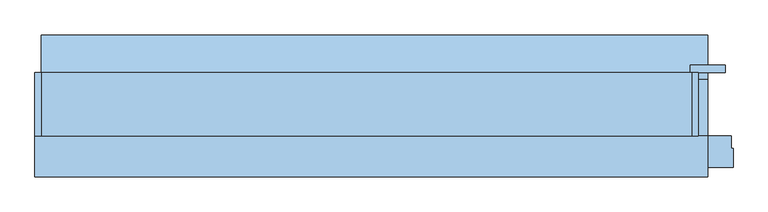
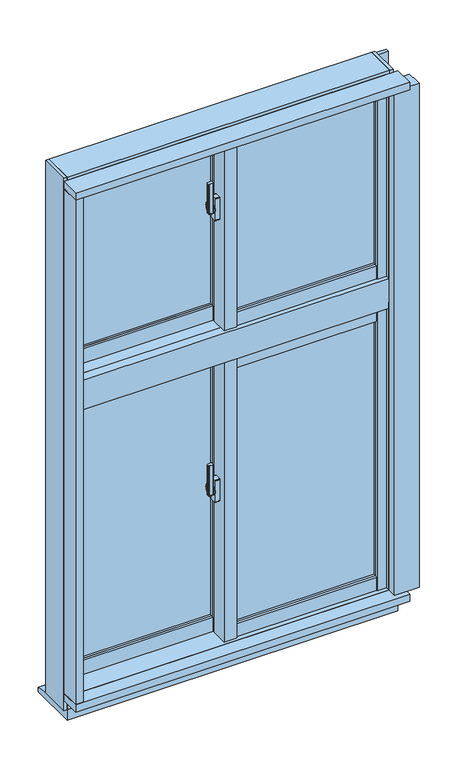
"""IFC4 building model written with IfcOpenShell, lengths in millimetres: window geometry, FNSⅡ100R_個別防火_RC枠_段窓 : 引違/引違."""

from ifc_helpers import new_model, si_unit, point, frame, frame_2d, origin, place, context, project, spatial, polyline, circle_curve, trimmed, segment, composite_curve, outline, extrude, faceted_brep, source, transform, mapped, element, save
from ifc_brep_helpers import plane_surface, cylinder_surface, revolved_surface, advanced_brep


def window_6179c8a8(model_context):
    return source(origin(), model_context, "Body", "SolidModel", [
        extrude(outline(composite_curve([segment(polyline([(-39.0, -20.4), (-39.0, -28.6)]), True, "CONTINUOUS"), segment(trimmed(circle_curve(frame_2d((-41.0, -28.6)), 2.0), [point((-39.0, -28.6))], [point((-41.3606557, -30.5672131))], False, "CARTESIAN"), True, "CONTINUOUS"), segment(polyline([(-41.3606557, -30.5672131), (-52.3606557, -28.5505464)]), True, "CONTINUOUS"), segment(trimmed(circle_curve(frame_2d((-52.0, -26.5833333)), 2.0), [point((-52.3606557, -28.5505464))], [point((-54.0, -26.5833333))], False, "CARTESIAN"), True, "CONTINUOUS"), segment(polyline([(-54.0, -26.5833333), (-54.0, -22.4166667)]), True, "CONTINUOUS"), segment(trimmed(circle_curve(frame_2d((-52.0, -22.4166667)), 2.0), [point((-54.0, -22.4166667))], [point((-52.3606557, -20.4494536))], False, "CARTESIAN"), True, "CONTINUOUS"), segment(polyline([(-52.3606557, -20.4494536), (-41.3606557, -18.4327869)]), True, "CONTINUOUS"), segment(trimmed(circle_curve(frame_2d((-41.0, -20.4)), 2.0), [point((-41.3606557, -18.4327869))], [point((-39.0, -20.4))], False, "CARTESIAN"), True, "CONTINUOUS")], self_intersect=False)), frame((0.0, 0.0, 2340.0), z_axis=(0.0, 0.0, 1.0), x_axis=(1.0, 0.0, 0.0)), (0.0, 0.0, 1.0), 100.0),
        advanced_brep(
        [(-37.5, -16.1765715, 2371.7333311), (-45.5, -16.1765715, 2371.7333311), (-45.5, -16.5648001, 2370.2844424), (-39.0, -16.5648001, 2370.2844424), (-39.0, -18.3765334, 2363.5229616), (-37.5, -18.3765334, 2363.5229616), (-39.0, -18.3533883, 2329.3190372), (-45.5, -18.3533883, 2329.3190372), (-45.5, -18.092916, 2327.8418256), (-37.5, -18.092916, 2327.8418256), (-37.5, -19.5689255, 2336.2126915), (-39.0, -19.5689255, 2336.2126915)],
        [
            (0, 1),
            (1, 2),
            (2, 3),
            (3, 4),
            (4, 5),
            (5, 0),
            (6, 7),
            (7, 8),
            (8, 9),
            (9, 10),
            (10, 11),
            (11, 6),
            (0, 9, circle_curve(frame((-37.5, -22.0, 2350.0), z_axis=(-1.0, 0.0, 0.0), x_axis=(0.0, 0.25881904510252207, 0.965925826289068)), 22.5)),
            (8, 1, circle_curve(frame((-45.5, -22.0, 2350.0), z_axis=(1.0, 0.0, 0.0), x_axis=(0.0, 0.25881904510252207, 0.965925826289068)), 22.5)),
            (7, 2, circle_curve(frame((-45.5, -22.0, 2350.0), z_axis=(1.0, 0.0, 0.0), x_axis=(0.0, 0.25881904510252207, 0.965925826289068)), 21.0)),
            (6, 3, circle_curve(frame((-39.0, -22.0, 2350.0), z_axis=(1.0, 0.0, 0.0), x_axis=(0.0, 0.25881904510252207, 0.965925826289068)), 21.0)),
            (11, 4, circle_curve(frame((-39.0, -22.0, 2350.0), z_axis=(-1.0, 0.0, 0.0), x_axis=(0.0, -1.0, 0.0)), 14.0)),
            (5, 10, circle_curve(frame((-37.5, -22.0, 2350.0), z_axis=(1.0, 0.0, 0.0), x_axis=(0.0, -1.0, 0.0)), 14.0)),
        ],
        [
            plane_surface(frame((-43.5470497, -22.0, 2350.0), z_axis=(0.0, -0.965925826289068, 0.25881904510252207), x_axis=(0.0, 0.25881904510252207, 0.965925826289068))),
            plane_surface(frame((-43.5470497, -22.0, 2350.0), z_axis=(0.0, -0.9848077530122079, -0.17364817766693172), x_axis=(0.0, 0.17364817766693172, -0.9848077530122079))),
            cylinder_surface(frame((-43.5470497, -22.0, 2350.0), z_axis=(-1.0, 0.0, 0.0), x_axis=(0.0, 0.25881904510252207, 0.965925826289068)), 22.5),
            plane_surface(frame((-45.5, -22.0, 2350.0), z_axis=(-1.0, 0.0, 0.0), x_axis=(0.0, 0.25881904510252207, 0.965925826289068))),
            revolved_surface(polyline([(-45.5, -16.564800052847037, 2370.2844423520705), (-39.0, -16.564800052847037, 2370.2844423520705)]), (-43.5470497, -22.0, 2350.0), (-1.0, 0.0, 0.0)),
            plane_surface(frame((-39.0, -22.0, 2350.0), z_axis=(-1.0, 0.0, 0.0), x_axis=(0.0, 0.25881904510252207, 0.965925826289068))),
            plane_surface(frame((-37.5, -22.0, 2350.0), z_axis=(1.0, 0.0, 0.0), x_axis=(0.0, 0.25881904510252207, 0.965925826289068))),
            cylinder_surface(frame((-37.5, -22.0, 2350.0), z_axis=(-1.0, 0.0, 0.0), x_axis=(0.0, -1.0, 0.0)), 14.0),
        ],
        [
            (0, [[1, 2, 3, 4, 5, 6]]),
            (1, [[7, 8, 9, 10, 11, 12]]),
            (2, [[-1, 13, -9, 14]]),
            (3, [[-2, -14, -8, 15]]),
            (4, [[-3, -15, -7, 16]]),
            (5, [[-16, -12, 17, -4]]),
            (6, [[-13, -6, 18, -10]]),
            (7, [[-17, -11, -18, -5]]),
        ],
    ),
        extrude(outline(composite_curve([segment(trimmed(circle_curve(frame_2d((-22.0, 2350.0)), 11.5), [point((-10.5, 2350.0))], [point((-33.5, 2350.0))], False, "CARTESIAN"), True, "CONTINUOUS"), segment(trimmed(circle_curve(frame_2d((-22.0, 2350.0)), 11.5), [point((-33.5, 2350.0))], [point((-10.5, 2350.0))], False, "CARTESIAN"), True, "CONTINUOUS")], self_intersect=False)), frame((-37.5, 0.0, 0.0), z_axis=(1.0, 0.0, 0.0), x_axis=(0.0, 1.0, 0.0)), (0.0, 0.0, 1.0), 2.5),
        extrude(outline(composite_curve([segment(polyline([(-31.0, 2387.5), (-13.0, 2387.5)]), True, "CONTINUOUS"), segment(trimmed(circle_curve(frame_2d((-13.0, 2385.5)), 2.0), [point((-13.0, 2387.5))], [point((-11.0, 2385.5))], False, "CARTESIAN"), True, "CONTINUOUS"), segment(polyline([(-11.0, 2385.5), (-11.0, 2314.5)]), True, "CONTINUOUS"), segment(trimmed(circle_curve(frame_2d((-13.0, 2314.5)), 2.0), [point((-11.0, 2314.5))], [point((-13.0, 2312.5))], False, "CARTESIAN"), True, "CONTINUOUS"), segment(polyline([(-13.0, 2312.5), (-31.0, 2312.5)]), True, "CONTINUOUS"), segment(trimmed(circle_curve(frame_2d((-31.0, 2314.5)), 2.0), [point((-31.0, 2312.5))], [point((-33.0, 2314.5))], False, "CARTESIAN"), True, "CONTINUOUS"), segment(polyline([(-33.0, 2314.5), (-33.0, 2385.5)]), True, "CONTINUOUS"), segment(trimmed(circle_curve(frame_2d((-31.0, 2385.5)), 2.0), [point((-33.0, 2385.5))], [point((-31.0, 2387.5))], False, "CARTESIAN"), True, "CONTINUOUS")], self_intersect=False)), frame((-35.0, 0.0, 0.0), z_axis=(1.0, 0.0, 0.0), x_axis=(0.0, 1.0, 0.0)), (0.0, 0.0, 1.0), 15.0),
        extrude(outline(polyline([(20.0, -31.0), (468.0, -31.0), (468.0, -37.0), (20.0, -37.0), (20.0, -31.0)])), frame((0.0, 0.0, 1998.0), z_axis=(0.0, 0.0, 1.0), x_axis=(1.0, 0.0, 0.0)), (0.0, 0.0, 1.0), 562.0),
        extrude(outline(polyline([(20.0, -13.0), (468.0, -13.0), (468.0, -19.0), (20.0, -19.0), (20.0, -13.0)])), frame((0.0, 0.0, 1998.0), z_axis=(0.0, 0.0, 1.0), x_axis=(1.0, 0.0, 0.0)), (0.0, 0.0, 1.0), 562.0),
        extrude(outline(polyline([(-468.0, 27.0), (-20.0, 27.0), (-20.0, 21.0), (-468.0, 21.0), (-468.0, 27.0)])), frame((0.0, 0.0, 1998.0), z_axis=(0.0, 0.0, 1.0), x_axis=(1.0, 0.0, 0.0)), (0.0, 0.0, 1.0), 562.0),
        extrude(outline(polyline([(-468.0, 45.0), (-20.0, 45.0), (-20.0, 39.0), (-468.0, 39.0), (-468.0, 45.0)])), frame((0.0, 0.0, 1998.0), z_axis=(0.0, 0.0, 1.0), x_axis=(1.0, 0.0, 0.0)), (0.0, 0.0, 1.0), 562.0),
        faceted_brep([(-500.0, 24.0, 2600.0), (-489.5, 24.0, 2600.0), (-489.5, 11.0, 2600.0), (-468.0, 11.0, 2600.0), (-468.0, 53.0, 2600.0), (-500.0, 53.0, 2600.0), (-468.0, 24.0, 1910.0), (-500.0, 24.0, 1910.0), (-500.0, 53.0, 1910.0), (-468.0, 53.0, 1910.0), (-468.0, 24.0, 1950.0), (-489.5, 24.0, 1950.0), (-489.5, 11.0, 1950.0), (-468.0, 11.0, 1950.0)], [[[0, 1, 2, 3, 4, 5]], [[6, 7, 8, 9]], [[1, 0, 7, 6, 10, 11]], [[2, 1, 11, 12]], [[3, 2, 12, 13]], [[4, 3, 13, 10, 6, 9]], [[5, 4, 9, 8]], [[7, 0, 5, 8]], [[11, 10, 13, 12]]]),
        faceted_brep([(-20.0, 10.5, 2600.0), (-1.8, 10.5, 2600.0), (-1.8, -1.9, 2600.0), (20.0, -1.9, 2600.0), (20.0, 53.0, 2600.0), (-20.0, 53.0, 2600.0), (-20.0, 53.0, 1910.0), (20.0, 53.0, 1910.0), (20.0, 24.0, 1910.0), (-20.0, 24.0, 1910.0), (-20.0, 10.5, 1950.0), (-1.8, 10.5, 1950.0), (-1.8, -1.9, 1950.0), (20.0, -1.9, 1950.0), (20.0, 24.0, 1950.0), (-20.0, 24.0, 1950.0)], [[[0, 1, 2, 3, 4, 5]], [[6, 7, 8, 9]], [[1, 0, 10, 11]], [[2, 1, 11, 12]], [[3, 2, 12, 13]], [[4, 3, 13, 14, 8, 7]], [[5, 4, 7, 6]], [[0, 5, 6, 9, 15, 10]], [[14, 15, 9, 8]], [[15, 14, 13, 12, 11, 10]]]),
        extrude(outline(polyline([(-20.0, -1.9), (-15.0, -1.9), (-15.0, -47.0), (15.0, -47.0), (15.0, -43.0), (20.0, -43.0), (20.0, -55.0), (-20.0, -55.0), (-20.0, -1.9)])), frame((0.0, 0.0, 1950.0), z_axis=(0.0, 0.0, 1.0), x_axis=(1.0, 0.0, 0.0)), (0.0, 0.0, 1.0), 650.0),
        extrude(outline(polyline([(-15.0, -1.9), (20.0, -1.9), (20.0, -43.0), (15.0, -43.0), (15.0, -47.0), (-15.0, -47.0), (-15.0, -1.9)])), frame((0.0, 0.0, 1950.0), z_axis=(0.0, 0.0, 1.0), x_axis=(1.0, 0.0, 0.0)), (0.0, 0.0, 1.0), 650.0),
        extrude(outline(polyline([(468.0, -55.0), (468.0, -47.0), (489.5, -47.0), (489.5, -34.0), (497.0, -34.0), (497.0, -55.0), (468.0, -55.0)])), frame((0.0, 0.0, 1953.0), z_axis=(0.0, 0.0, 1.0), x_axis=(1.0, 0.0, 0.0)), (0.0, 0.0, 1.0), 647.0),
        extrude(outline(polyline([(468.0, -5.0), (500.0, -5.0), (500.0, -34.0), (489.5, -34.0), (489.5, -47.0), (468.0, -47.0), (468.0, -5.0)])), frame((0.0, 0.0, 1950.0), z_axis=(0.0, 0.0, 1.0), x_axis=(1.0, 0.0, 0.0)), (0.0, 0.0, 1.0), 650.0),
        extrude(outline(polyline([(-1.85, 10.5), (-1.85, 3.0), (-20.0, 3.0), (-20.0, 10.5), (-1.85, 10.5)])), frame((0.0, 0.0, 1950.0), z_axis=(0.0, 0.0, 1.0), x_axis=(1.0, 0.0, 0.0)), (0.0, 0.0, 1.0), 650.0),
        extrude(outline(polyline([(-497.0, 24.0), (-489.5, 24.0), (-489.5, 11.0), (-468.0, 11.0), (-468.0, 3.0), (-497.0, 3.0), (-497.0, 24.0)])), frame((0.0, 0.0, 1950.0), z_axis=(0.0, 0.0, 1.0), x_axis=(1.0, 0.0, 0.0)), (0.0, 0.0, 1.0), 650.0),
        extrude(outline(polyline([(-53.0, 1953.0), (-53.0, 1998.0), (-45.0, 1998.0), (-45.0, 1975.5), (-34.0, 1975.5), (-34.0, 1953.0), (-53.0, 1953.0)])), frame((20.0, 0.0, 0.0), z_axis=(1.0, 0.0, 0.0), x_axis=(0.0, 1.0, 0.0)), (0.0, 0.0, 1.0), 448.0),
        extrude(outline(polyline([(-5.0, 1950.0), (-34.0, 1950.0), (-34.0, 1975.5), (-45.0, 1975.5), (-45.0, 1998.0), (-5.0, 1998.0), (-5.0, 1950.0)])), frame((20.0, 0.0, 0.0), z_axis=(1.0, 0.0, 0.0), x_axis=(0.0, 1.0, 0.0)), (0.0, 0.0, 1.0), 448.0),
        extrude(outline(polyline([(5.0, 1998.0), (13.0, 1998.0), (13.0, 1975.5), (24.0, 1975.5), (24.0, 1950.0), (5.0, 1950.0), (5.0, 1998.0)])), frame((-468.0, 0.0, 0.0), z_axis=(1.0, 0.0, 0.0), x_axis=(0.0, 1.0, 0.0)), (0.0, 0.0, 1.0), 448.0),
        extrude(outline(polyline([(53.0, 1910.0), (24.0, 1910.0), (24.0, 1975.5), (13.0, 1975.5), (13.0, 1998.0), (53.0, 1998.0), (53.0, 1910.0)])), frame((-468.0, 0.0, 0.0), z_axis=(1.0, 0.0, 0.0), x_axis=(0.0, 1.0, 0.0)), (0.0, 0.0, 1.0), 448.0),
        extrude(outline(polyline([(-32.0, 2580.5), (-45.0, 2580.5), (-45.0, 2560.0), (-53.0, 2560.0), (-53.0, 2600.0), (-32.0, 2600.0), (-32.0, 2580.5)])), frame((20.0, 0.0, 0.0), z_axis=(1.0, 0.0, 0.0), x_axis=(0.0, 1.0, 0.0)), (0.0, 0.0, 1.0), 448.0),
        extrude(outline(polyline([(-5.0, 2600.0), (-5.0, 2560.0), (-45.0, 2560.0), (-45.0, 2580.5), (-32.0, 2580.5), (-32.0, 2600.0), (-5.0, 2600.0)])), frame((20.0, 0.0, 0.0), z_axis=(1.0, 0.0, 0.0), x_axis=(0.0, 1.0, 0.0)), (0.0, 0.0, 1.0), 448.0),
        extrude(outline(polyline([(26.0, 2580.5), (13.0, 2580.5), (13.0, 2560.0), (5.0, 2560.0), (5.0, 2600.0), (26.0, 2600.0), (26.0, 2580.5)])), frame((-468.0, 0.0, 0.0), z_axis=(1.0, 0.0, 0.0), x_axis=(0.0, 1.0, 0.0)), (0.0, 0.0, 1.0), 448.0),
        extrude(outline(polyline([(53.0, 2600.0), (53.0, 2560.0), (13.0, 2560.0), (13.0, 2580.5), (26.0, 2580.5), (26.0, 2600.0), (53.0, 2600.0)])), frame((-468.0, 0.0, 0.0), z_axis=(1.0, 0.0, 0.0), x_axis=(0.0, 1.0, 0.0)), (0.0, 0.0, 1.0), 448.0),
        faceted_brep([(500.0, -65.0, 900.0), (500.0, -40.5, 900.0), (515.0, -40.5, 900.0), (515.0, -45.0, 900.0), (503.0, -45.0, 900.0), (503.0, -65.0, 900.0), (500.0, -65.0, 1870.0), (500.0, -40.5, 1870.0), (515.0, -40.5, 1870.0), (515.0, -45.0, 1870.0), (503.0, -45.0, 1870.0), (503.0, -65.0, 1870.0)], [[[0, 1, 2, 3, 4, 5]], [[1, 0, 6, 7]], [[2, 1, 7, 8]], [[3, 2, 8, 9]], [[4, 3, 9, 10]], [[5, 4, 10, 11]], [[0, 5, 11, 6]], [[6, 11, 10, 9, 8, 7]]]),
        faceted_brep([(500.0, -45.0, 2620.0), (500.0, -40.5, 2620.0), (500.0, -40.5, 1950.0), (500.0, -65.0, 1950.0), (500.0, -65.0, 2603.0), (500.0, -45.0, 2603.0), (515.0, -40.5, 2620.0), (515.0, -40.5, 1950.0), (515.0, -45.0, 2620.0), (515.0, -45.0, 1950.0), (503.0, -45.0, 2603.0), (503.0, -45.0, 1950.0), (503.0, -65.0, 2603.0), (503.0, -65.0, 1950.0)], [[[0, 1, 2, 3, 4, 5]], [[1, 6, 7, 2]], [[6, 8, 9, 7]], [[5, 10, 11, 9, 8, 0]], [[10, 12, 13, 11]], [[12, 4, 3, 13]], [[8, 6, 1, 0]], [[10, 5, 4, 12]], [[13, 3, 2, 7, 9, 11]]]),
        faceted_brep([(515.0, 55.0, 840.0), (515.0, 55.0, 849.0), (515.0, 21.0, 849.0), (515.0, 21.0, 884.0), (515.0, -45.0, 884.0), (515.0, -45.0, 840.0), (-515.0, 55.0, 840.0), (-515.0, 55.0, 849.0), (-515.0, 21.0, 849.0), (-515.0, 21.0, 884.0), (-515.0, -45.0, 884.0), (500.0, -17.75, 884.0), (500.0, -36.2, 884.0), (-15.0, -36.2, 884.0), (-15.0, -17.75, 884.0), (-515.0, -45.0, 840.0), (500.0, -36.2, 900.0), (500.0, -17.75, 900.0), (-15.0, -36.2, 900.0), (-15.0, -17.75, 900.0)], [[[0, 1, 2, 3, 4, 5]], [[1, 0, 6, 7]], [[2, 1, 7, 8]], [[3, 2, 8, 9]], [[4, 3, 9, 10], [11, 12, 13, 14]], [[5, 4, 10, 15]], [[0, 5, 15, 6]], [[6, 15, 10, 9, 8, 7]], [[16, 12, 11, 17]], [[12, 16, 18, 13]], [[18, 19, 14, 13]], [[17, 11, 14, 19]], [[16, 17, 19, 18]]]),
        faceted_brep([(500.0, -36.2, 1950.0), (500.0, -36.2, 1934.0), (500.0, -17.75, 1934.0), (500.0, -17.75, 1950.0), (-15.0, -36.2, 1950.0), (-15.0, -17.75, 1950.0), (-15.0, -17.75, 1934.0), (-15.0, -36.2, 1934.0)], [[[0, 1, 2, 3]], [[4, 5, 6, 7]], [[1, 0, 4, 7]], [[2, 1, 7, 6]], [[3, 2, 6, 5]], [[0, 3, 5, 4]]]),
        faceted_brep([(-515.0, -45.0, 900.0), (-515.0, 21.0, 900.0), (-500.0, 21.0, 900.0), (-500.0, -65.0, 900.0), (-503.0, -65.0, 900.0), (-503.0, -45.0, 900.0), (-515.0, -45.0, 1870.0), (-515.0, 21.0, 1870.0), (-500.0, 21.0, 1870.0), (-500.0, -65.0, 1870.0), (-503.0, -65.0, 1870.0), (-503.0, -45.0, 1870.0)], [[[0, 1, 2, 3, 4, 5]], [[1, 0, 6, 7]], [[2, 1, 7, 8]], [[3, 2, 8, 9]], [[4, 3, 9, 10]], [[5, 4, 10, 11]], [[0, 5, 11, 6]], [[6, 11, 10, 9, 8, 7]]]),
        faceted_brep([(-515.0, -45.0, 2620.0), (-515.0, 21.0, 2620.0), (-515.0, 21.0, 1950.0), (-515.0, -45.0, 1950.0), (-500.0, 21.0, 2620.0), (-500.0, 21.0, 1950.0), (-500.0, -45.0, 2620.0), (-500.0, -45.0, 2603.0), (-500.0, -65.0, 2603.0), (-500.0, -65.0, 1950.0), (-503.0, -65.0, 2603.0), (-503.0, -65.0, 1950.0), (-503.0, -45.0, 2603.0), (-503.0, -45.0, 1950.0)], [[[0, 1, 2, 3]], [[1, 4, 5, 2]], [[4, 6, 7, 8, 9, 5]], [[8, 10, 11, 9]], [[10, 12, 13, 11]], [[12, 7, 6, 0, 3, 13]], [[4, 1, 0, 6]], [[7, 12, 10, 8]], [[13, 3, 2, 5, 9, 11]]]),
        faceted_brep([(-525.0, 55.0, 840.0), (-515.0, 55.0, 840.0), (-515.0, -45.0, 840.0), (-525.0, -45.0, 840.0), (-525.0, 55.0, 2635.0), (-515.0, 55.0, 2635.0), (-515.0, 55.0, 2600.0), (-500.0, 55.0, 2600.0), (-500.0, 55.0, 1899.0), (-515.0, 55.0, 1899.0), (-515.0, 55.0, 1850.0), (-500.0, 55.0, 1850.0), (-500.0, 55.0, 849.0), (-515.0, 55.0, 849.0), (-515.0, -45.0, 2635.0), (-515.0, 21.0, 849.0), (-515.0, 21.0, 1850.0), (-515.0, 21.0, 1899.0), (-515.0, 21.0, 2600.0), (-525.0, -45.0, 2635.0), (-500.0, 21.0, 849.0), (-500.0, 21.0, 1850.0), (-500.0, 21.0, 2600.0), (-500.0, 21.0, 1899.0)], [[[0, 1, 2, 3]], [[4, 5, 6, 7, 8, 9, 10, 11, 12, 13, 1, 0]], [[5, 14, 2, 1, 13, 15, 16, 10, 9, 17, 18, 6]], [[14, 19, 3, 2]], [[19, 4, 0, 3]], [[12, 20, 15, 13]], [[21, 16, 15, 20]], [[11, 21, 20, 12]], [[4, 19, 14, 5]], [[11, 10, 16, 21]], [[7, 6, 18, 22]], [[8, 23, 17, 9]], [[22, 18, 17, 23]], [[7, 22, 23, 8]]]),
        faceted_brep([(515.0, -45.0, 840.0), (515.0, 55.0, 840.0), (525.0, 55.0, 840.0), (525.0, -45.0, 840.0), (515.0, -45.0, 2635.0), (515.0, 55.0, 2635.0), (515.0, 55.0, 2600.0), (515.0, -40.5, 2600.0), (515.0, -40.5, 1899.0), (515.0, 55.0, 1899.0), (515.0, 55.0, 1850.0), (515.0, -40.5, 1850.0), (515.0, -40.5, 849.0), (515.0, 55.0, 849.0), (525.0, 55.0, 2635.0), (500.0, 55.0, 849.0), (500.0, 55.0, 1850.0), (500.0, 55.0, 1899.0), (500.0, 55.0, 2600.0), (525.0, -45.0, 2635.0), (500.0, -40.5, 849.0), (500.0, -40.5, 1850.0), (500.0, -40.5, 2600.0), (500.0, -40.5, 1899.0)], [[[0, 1, 2, 3]], [[4, 5, 6, 7, 8, 9, 10, 11, 12, 13, 1, 0]], [[5, 14, 2, 1, 13, 15, 16, 10, 9, 17, 18, 6]], [[14, 19, 3, 2]], [[19, 4, 0, 3]], [[20, 15, 13, 12]], [[21, 16, 15, 20]], [[11, 21, 20, 12]], [[4, 19, 14, 5]], [[21, 11, 10, 16]], [[22, 7, 6, 18]], [[23, 17, 9, 8]], [[7, 22, 23, 8]], [[22, 18, 17, 23]]]),
        faceted_brep([(503.0, -65.0, 900.0), (503.0, -65.0, 897.0), (503.0, -45.0, 897.0), (503.0, -45.0, 884.0), (503.0, -40.5, 884.0), (503.0, -40.5, 900.0), (-503.0, -45.0, 884.0), (-503.0, -45.0, 897.0), (-503.0, -65.0, 897.0), (-503.0, -65.0, 900.0), (-503.0, -36.2, 900.0), (-503.0, -36.2, 884.0), (500.0, -40.5, 900.0), (500.0, -36.2, 900.0), (-15.0, -36.2, 900.0), (-15.0, 21.0, 900.0), (-500.0, 21.0, 900.0), (-500.0, -36.2, 900.0), (-500.0, -36.2, 884.0), (500.0, -36.2, 884.0), (-15.0, -36.2, 884.0), (-500.0, 21.0, 884.0), (-15.0, 21.0, 884.0), (500.0, -40.5, 884.0)], [[[0, 1, 2, 3, 4, 5]], [[6, 7, 8, 9, 10, 11]], [[3, 2, 7, 6]], [[2, 1, 8, 7]], [[1, 0, 9, 8]], [[10, 9, 0, 5, 12, 13, 14, 15, 16, 17]], [[11, 10, 17, 18]], [[13, 19, 20, 14]], [[6, 11, 18, 21, 22, 20, 19, 23, 4, 3]], [[12, 23, 19, 13]], [[23, 12, 5, 4]], [[15, 14, 20, 22]], [[16, 21, 18, 17]], [[15, 22, 21, 16]]]),
        faceted_brep([(500.0, -23.1, 2600.0), (500.0, -23.1, 2625.0), (500.0, -45.0, 2625.0), (500.0, -45.0, 2603.0), (500.0, -65.0, 2603.0), (500.0, -65.0, 2600.0), (-500.0, -23.1, 2600.0), (-500.0, -65.0, 2600.0), (-500.0, -65.0, 2603.0), (-500.0, -45.0, 2603.0), (-500.0, -45.0, 2625.0), (-500.0, -23.1, 2625.0)], [[[0, 1, 2, 3, 4, 5]], [[6, 7, 8, 9, 10, 11]], [[1, 0, 6, 11]], [[2, 1, 11, 10]], [[3, 2, 10, 9]], [[4, 3, 9, 8]], [[5, 4, 8, 7]], [[0, 5, 7, 6]]]),
        faceted_brep([(500.0, -23.1, 1875.0), (500.0, -45.0, 1875.0), (500.0, -45.0, 1934.0), (500.0, -36.2, 1934.0), (500.0, -36.2, 1950.0), (500.0, -65.0, 1950.0), (500.0, -65.0, 1870.0), (500.0, -65.0, 1850.0), (500.0, -23.1, 1850.0), (500.0, -23.1, 1870.0), (-500.0, -23.1, 1850.0), (-500.0, -65.0, 1850.0), (-500.0, -65.0, 1870.0), (-500.0, -65.0, 1950.0), (-500.0, -36.2, 1950.0), (-500.0, -36.2, 1934.0), (-500.0, -45.0, 1934.0), (-500.0, -45.0, 1875.0), (-500.0, -23.1, 1875.0), (-500.0, -23.1, 1870.0)], [[[0, 1, 2, 3, 4, 5, 6, 7, 8, 9]], [[10, 11, 12, 13, 14, 15, 16, 17, 18, 19]], [[8, 10, 19, 18, 0, 9]], [[1, 0, 18, 17]], [[5, 13, 12, 11, 7, 6]], [[8, 7, 11, 10]], [[2, 1, 17, 16]], [[3, 2, 16, 15]], [[4, 3, 15, 14]], [[5, 4, 14, 13]]]),
        extrude(outline(polyline([(-15.0, 25.3), (-15.0, -23.1), (-500.0, -23.1), (-500.0, 25.3), (-15.0, 25.3)])), frame((0.0, 0.0, 2600.0), z_axis=(0.0, 0.0, 1.0), x_axis=(1.0, 0.0, 0.0)), (0.0, 0.0, 1.0), 25.0),
        extrude(outline(polyline([(-15.0, 21.0), (-15.0, -36.2), (-500.0, -36.2), (-500.0, 21.0), (-15.0, 21.0)])), frame((0.0, 0.0, 1934.0), z_axis=(0.0, 0.0, 1.0), x_axis=(1.0, 0.0, 0.0)), (0.0, 0.0, 1.0), 16.0),
        extrude(outline(polyline([(-15.0, 25.3), (-15.0, -23.1), (-500.0, -23.1), (-500.0, 25.3), (-15.0, 25.3)])), frame((0.0, 0.0, 1850.0), z_axis=(0.0, 0.0, 1.0), x_axis=(1.0, 0.0, 0.0)), (0.0, 0.0, 1.0), 25.0),
        faceted_brep([(515.0, 55.0, 2600.0), (515.0, 55.0, 2635.0), (515.0, -45.0, 2635.0), (515.0, -45.0, 2625.0), (515.0, 25.3, 2625.0), (515.0, 25.3, 2600.0), (-515.0, 55.0, 2600.0), (-515.0, 25.3, 2600.0), (-515.0, 25.3, 2625.0), (-515.0, -45.0, 2625.0), (-515.0, -45.0, 2635.0), (-515.0, 55.0, 2635.0), (-15.0, 25.3, 2625.0), (-15.0, -23.1, 2625.0), (500.0, -23.1, 2625.0), (500.0, 25.3, 2625.0), (500.0, 25.3, 2600.0), (-15.0, 25.3, 2600.0), (500.0, -23.1, 2600.0), (-15.0, -23.1, 2600.0)], [[[0, 1, 2, 3, 4, 5]], [[6, 7, 8, 9, 10, 11]], [[1, 0, 6, 11]], [[2, 1, 11, 10]], [[3, 2, 10, 9]], [[4, 3, 9, 8, 12, 13, 14, 15]], [[5, 4, 15, 16]], [[8, 7, 17, 12]], [[0, 5, 16, 18, 19, 17, 7, 6]], [[14, 18, 16, 15]], [[17, 19, 13, 12]], [[18, 14, 13, 19]]]),
        faceted_brep([(515.0, 55.0, 1850.0), (515.0, 55.0, 1899.0), (515.0, 21.0, 1899.0), (515.0, 21.0, 1934.0), (515.0, -45.0, 1934.0), (515.0, -45.0, 1875.0), (515.0, 25.3, 1875.0), (515.0, 25.3, 1850.0), (-515.0, 55.0, 1850.0), (-515.0, 25.3, 1850.0), (-515.0, 25.3, 1875.0), (-515.0, -45.0, 1875.0), (-515.0, -45.0, 1934.0), (-515.0, 21.0, 1934.0), (-515.0, 21.0, 1899.0), (-515.0, 55.0, 1899.0), (500.0, -23.1, 1850.0), (500.0, 25.3, 1850.0), (500.0, 25.3, 1870.0), (500.0, 25.3, 1875.0), (500.0, -23.1, 1875.0), (500.0, -23.1, 1870.0), (-15.0, 25.3, 1850.0), (-15.0, -23.1, 1850.0), (-15.0, -23.1, 1875.0), (-15.0, 25.3, 1875.0)], [[[0, 1, 2, 3, 4, 5, 6, 7]], [[8, 9, 10, 11, 12, 13, 14, 15]], [[16, 17, 18, 19, 20, 21]], [[22, 23, 24, 25]], [[1, 0, 8, 15]], [[2, 1, 15, 14]], [[3, 2, 14, 13]], [[4, 3, 13, 12]], [[5, 4, 12, 11]], [[6, 5, 11, 10, 25, 24, 20, 19]], [[7, 6, 19, 18, 17]], [[10, 9, 22, 25]], [[0, 7, 17, 16, 23, 22, 9, 8]], [[24, 23, 16, 21, 20]]]),
        extrude(outline(composite_curve([segment(polyline([(-39.0, -20.4), (-39.0, -28.6)]), True, "CONTINUOUS"), segment(trimmed(circle_curve(frame_2d((-41.0, -28.6)), 2.0), [point((-39.0, -28.6))], [point((-41.3606557, -30.5672131))], False, "CARTESIAN"), True, "CONTINUOUS"), segment(polyline([(-41.3606557, -30.5672131), (-52.3606557, -28.5505464)]), True, "CONTINUOUS"), segment(trimmed(circle_curve(frame_2d((-52.0, -26.5833333)), 2.0), [point((-52.3606557, -28.5505464))], [point((-54.0, -26.5833333))], False, "CARTESIAN"), True, "CONTINUOUS"), segment(polyline([(-54.0, -26.5833333), (-54.0, -22.4166667)]), True, "CONTINUOUS"), segment(trimmed(circle_curve(frame_2d((-52.0, -22.4166667)), 2.0), [point((-54.0, -22.4166667))], [point((-52.3606557, -20.4494536))], False, "CARTESIAN"), True, "CONTINUOUS"), segment(polyline([(-52.3606557, -20.4494536), (-41.3606557, -18.4327869)]), True, "CONTINUOUS"), segment(trimmed(circle_curve(frame_2d((-41.0, -20.4)), 2.0), [point((-41.3606557, -18.4327869))], [point((-39.0, -20.4))], False, "CARTESIAN"), True, "CONTINUOUS")], self_intersect=False)), frame((0.0, 0.0, 1390.0), z_axis=(0.0, 0.0, 1.0), x_axis=(1.0, 0.0, 0.0)), (0.0, 0.0, 1.0), 100.0),
        advanced_brep(
        [(-37.5, -16.1765715, 1421.7333311), (-45.5, -16.1765715, 1421.7333311), (-45.5, -16.5648001, 1420.2844424), (-39.0, -16.5648001, 1420.2844424), (-39.0, -18.3765334, 1413.5229616), (-37.5, -18.3765334, 1413.5229616), (-39.0, -18.3533883, 1379.3190372), (-45.5, -18.3533883, 1379.3190372), (-45.5, -18.092916, 1377.8418256), (-37.5, -18.092916, 1377.8418256), (-37.5, -19.5689255, 1386.2126915), (-39.0, -19.5689255, 1386.2126915)],
        [
            (0, 1),
            (1, 2),
            (2, 3),
            (3, 4),
            (4, 5),
            (5, 0),
            (6, 7),
            (7, 8),
            (8, 9),
            (9, 10),
            (10, 11),
            (11, 6),
            (0, 9, circle_curve(frame((-37.5, -22.0, 1400.0), z_axis=(-1.0, 0.0, 0.0), x_axis=(0.0, 0.25881904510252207, 0.965925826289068)), 22.5)),
            (8, 1, circle_curve(frame((-45.5, -22.0, 1400.0), z_axis=(1.0, 0.0, 0.0), x_axis=(0.0, 0.25881904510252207, 0.965925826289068)), 22.5)),
            (7, 2, circle_curve(frame((-45.5, -22.0, 1400.0), z_axis=(1.0, 0.0, 0.0), x_axis=(0.0, 0.25881904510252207, 0.965925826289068)), 21.0)),
            (6, 3, circle_curve(frame((-39.0, -22.0, 1400.0), z_axis=(1.0, 0.0, 0.0), x_axis=(0.0, 0.25881904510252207, 0.965925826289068)), 21.0)),
            (11, 4, circle_curve(frame((-39.0, -22.0, 1400.0), z_axis=(-1.0, 0.0, 0.0), x_axis=(0.0, -1.0, 0.0)), 14.0)),
            (5, 10, circle_curve(frame((-37.5, -22.0, 1400.0), z_axis=(1.0, 0.0, 0.0), x_axis=(0.0, -1.0, 0.0)), 14.0)),
        ],
        [
            plane_surface(frame((-43.5470497, -22.0, 1400.0), z_axis=(0.0, -0.965925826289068, 0.25881904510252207), x_axis=(0.0, 0.25881904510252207, 0.965925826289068))),
            plane_surface(frame((-43.5470497, -22.0, 1400.0), z_axis=(0.0, -0.9848077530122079, -0.17364817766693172), x_axis=(0.0, 0.17364817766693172, -0.9848077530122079))),
            cylinder_surface(frame((-43.5470497, -22.0, 1400.0), z_axis=(-1.0, 0.0, 0.0), x_axis=(0.0, 0.25881904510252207, 0.965925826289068)), 22.5),
            plane_surface(frame((-45.5, -22.0, 1400.0), z_axis=(-1.0, 0.0, 0.0), x_axis=(0.0, 0.25881904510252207, 0.965925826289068))),
            revolved_surface(polyline([(-45.5, -16.564800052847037, 1420.2844423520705), (-39.0, -16.564800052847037, 1420.2844423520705)]), (-43.5470497, -22.0, 1400.0), (-1.0, 0.0, 0.0)),
            plane_surface(frame((-39.0, -22.0, 1400.0), z_axis=(-1.0, 0.0, 0.0), x_axis=(0.0, 0.25881904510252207, 0.965925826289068))),
            plane_surface(frame((-37.5, -22.0, 1400.0), z_axis=(1.0, 0.0, 0.0), x_axis=(0.0, 0.25881904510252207, 0.965925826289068))),
            cylinder_surface(frame((-37.5, -22.0, 1400.0), z_axis=(-1.0, 0.0, 0.0), x_axis=(0.0, -1.0, 0.0)), 14.0),
        ],
        [
            (0, [[1, 2, 3, 4, 5, 6]]),
            (1, [[7, 8, 9, 10, 11, 12]]),
            (2, [[-1, 13, -9, 14]]),
            (3, [[-2, -14, -8, 15]]),
            (4, [[-3, -15, -7, 16]]),
            (5, [[-16, -12, 17, -4]]),
            (6, [[-13, -6, 18, -10]]),
            (7, [[-17, -11, -18, -5]]),
        ],
    ),
        extrude(outline(composite_curve([segment(trimmed(circle_curve(frame_2d((-22.0, 1400.0)), 11.5), [point((-10.5, 1400.0))], [point((-33.5, 1400.0))], False, "CARTESIAN"), True, "CONTINUOUS"), segment(trimmed(circle_curve(frame_2d((-22.0, 1400.0)), 11.5), [point((-33.5, 1400.0))], [point((-10.5, 1400.0))], False, "CARTESIAN"), True, "CONTINUOUS")], self_intersect=False)), frame((-37.5, 0.0, 0.0), z_axis=(1.0, 0.0, 0.0), x_axis=(0.0, 1.0, 0.0)), (0.0, 0.0, 1.0), 2.5),
        extrude(outline(composite_curve([segment(polyline([(-31.0, 1437.5), (-13.0, 1437.5)]), True, "CONTINUOUS"), segment(trimmed(circle_curve(frame_2d((-13.0, 1435.5)), 2.0), [point((-13.0, 1437.5))], [point((-11.0, 1435.5))], False, "CARTESIAN"), True, "CONTINUOUS"), segment(polyline([(-11.0, 1435.5), (-11.0, 1364.5)]), True, "CONTINUOUS"), segment(trimmed(circle_curve(frame_2d((-13.0, 1364.5)), 2.0), [point((-11.0, 1364.5))], [point((-13.0, 1362.5))], False, "CARTESIAN"), True, "CONTINUOUS"), segment(polyline([(-13.0, 1362.5), (-31.0, 1362.5)]), True, "CONTINUOUS"), segment(trimmed(circle_curve(frame_2d((-31.0, 1364.5)), 2.0), [point((-31.0, 1362.5))], [point((-33.0, 1364.5))], False, "CARTESIAN"), True, "CONTINUOUS"), segment(polyline([(-33.0, 1364.5), (-33.0, 1435.5)]), True, "CONTINUOUS"), segment(trimmed(circle_curve(frame_2d((-31.0, 1435.5)), 2.0), [point((-33.0, 1435.5))], [point((-31.0, 1437.5))], False, "CARTESIAN"), True, "CONTINUOUS")], self_intersect=False)), frame((-35.0, 0.0, 0.0), z_axis=(1.0, 0.0, 0.0), x_axis=(0.0, 1.0, 0.0)), (0.0, 0.0, 1.0), 15.0),
        extrude(outline(polyline([(20.0, -31.0), (468.0, -31.0), (468.0, -37.0), (20.0, -37.0), (20.0, -31.0)])), frame((0.0, 0.0, 948.0), z_axis=(0.0, 0.0, 1.0), x_axis=(1.0, 0.0, 0.0)), (0.0, 0.0, 1.0), 862.0),
        extrude(outline(polyline([(20.0, -13.0), (468.0, -13.0), (468.0, -19.0), (20.0, -19.0), (20.0, -13.0)])), frame((0.0, 0.0, 948.0), z_axis=(0.0, 0.0, 1.0), x_axis=(1.0, 0.0, 0.0)), (0.0, 0.0, 1.0), 862.0),
        extrude(outline(polyline([(-468.0, 27.0), (-20.0, 27.0), (-20.0, 21.0), (-468.0, 21.0), (-468.0, 27.0)])), frame((0.0, 0.0, 948.0), z_axis=(0.0, 0.0, 1.0), x_axis=(1.0, 0.0, 0.0)), (0.0, 0.0, 1.0), 862.0),
        extrude(outline(polyline([(-468.0, 45.0), (-20.0, 45.0), (-20.0, 39.0), (-468.0, 39.0), (-468.0, 45.0)])), frame((0.0, 0.0, 948.0), z_axis=(0.0, 0.0, 1.0), x_axis=(1.0, 0.0, 0.0)), (0.0, 0.0, 1.0), 862.0),
        faceted_brep([(-500.0, 24.0, 1850.0), (-489.5, 24.0, 1850.0), (-489.5, 11.0, 1850.0), (-468.0, 11.0, 1850.0), (-468.0, 53.0, 1850.0), (-500.0, 53.0, 1850.0), (-468.0, 24.0, 860.0), (-500.0, 24.0, 860.0), (-500.0, 53.0, 860.0), (-468.0, 53.0, 860.0), (-468.0, 24.0, 900.0), (-489.5, 24.0, 900.0), (-489.5, 11.0, 900.0), (-468.0, 11.0, 900.0)], [[[0, 1, 2, 3, 4, 5]], [[6, 7, 8, 9]], [[1, 0, 7, 6, 10, 11]], [[2, 1, 11, 12]], [[3, 2, 12, 13]], [[4, 3, 13, 10, 6, 9]], [[5, 4, 9, 8]], [[7, 0, 5, 8]], [[11, 10, 13, 12]]]),
        faceted_brep([(-20.0, 10.5, 1850.0), (-1.8, 10.5, 1850.0), (-1.8, -1.9, 1850.0), (20.0, -1.9, 1850.0), (20.0, 53.0, 1850.0), (-20.0, 53.0, 1850.0), (-20.0, 53.0, 860.0), (20.0, 53.0, 860.0), (20.0, 24.0, 860.0), (-20.0, 24.0, 860.0), (-20.0, 10.5, 900.0), (-1.8, 10.5, 900.0), (-1.8, -1.9, 900.0), (20.0, -1.9, 900.0), (20.0, 24.0, 900.0), (-20.0, 24.0, 900.0)], [[[0, 1, 2, 3, 4, 5]], [[6, 7, 8, 9]], [[1, 0, 10, 11]], [[2, 1, 11, 12]], [[3, 2, 12, 13]], [[4, 3, 13, 14, 8, 7]], [[5, 4, 7, 6]], [[0, 5, 6, 9, 15, 10]], [[14, 15, 9, 8]], [[15, 14, 13, 12, 11, 10]]]),
        extrude(outline(polyline([(-20.0, -1.9), (-15.0, -1.9), (-15.0, -47.0), (15.0, -47.0), (15.0, -43.0), (20.0, -43.0), (20.0, -55.0), (-20.0, -55.0), (-20.0, -1.9)])), frame((0.0, 0.0, 900.0), z_axis=(0.0, 0.0, 1.0), x_axis=(1.0, 0.0, 0.0)), (0.0, 0.0, 1.0), 950.0),
        extrude(outline(polyline([(-15.0, -1.9), (20.0, -1.9), (20.0, -43.0), (15.0, -43.0), (15.0, -47.0), (-15.0, -47.0), (-15.0, -1.9)])), frame((0.0, 0.0, 900.0), z_axis=(0.0, 0.0, 1.0), x_axis=(1.0, 0.0, 0.0)), (0.0, 0.0, 1.0), 950.0),
        extrude(outline(polyline([(468.0, -55.0), (468.0, -47.0), (489.5, -47.0), (489.5, -34.0), (497.0, -34.0), (497.0, -55.0), (468.0, -55.0)])), frame((0.0, 0.0, 903.0), z_axis=(0.0, 0.0, 1.0), x_axis=(1.0, 0.0, 0.0)), (0.0, 0.0, 1.0), 947.0),
        extrude(outline(polyline([(468.0, -5.0), (500.0, -5.0), (500.0, -34.0), (489.5, -34.0), (489.5, -47.0), (468.0, -47.0), (468.0, -5.0)])), frame((0.0, 0.0, 900.0), z_axis=(0.0, 0.0, 1.0), x_axis=(1.0, 0.0, 0.0)), (0.0, 0.0, 1.0), 950.0),
        extrude(outline(polyline([(-1.85, 10.5), (-1.85, 3.0), (-20.0, 3.0), (-20.0, 10.5), (-1.85, 10.5)])), frame((0.0, 0.0, 900.0), z_axis=(0.0, 0.0, 1.0), x_axis=(1.0, 0.0, 0.0)), (0.0, 0.0, 1.0), 950.0),
        extrude(outline(polyline([(-497.0, 24.0), (-489.5, 24.0), (-489.5, 11.0), (-468.0, 11.0), (-468.0, 3.0), (-497.0, 3.0), (-497.0, 24.0)])), frame((0.0, 0.0, 900.0), z_axis=(0.0, 0.0, 1.0), x_axis=(1.0, 0.0, 0.0)), (0.0, 0.0, 1.0), 950.0),
        extrude(outline(polyline([(-53.0, 903.0), (-53.0, 948.0), (-45.0, 948.0), (-45.0, 925.5), (-34.0, 925.5), (-34.0, 903.0), (-53.0, 903.0)])), frame((20.0, 0.0, 0.0), z_axis=(1.0, 0.0, 0.0), x_axis=(0.0, 1.0, 0.0)), (0.0, 0.0, 1.0), 448.0),
        extrude(outline(polyline([(-5.0, 900.0), (-34.0, 900.0), (-34.0, 925.5), (-45.0, 925.5), (-45.0, 948.0), (-5.0, 948.0), (-5.0, 900.0)])), frame((20.0, 0.0, 0.0), z_axis=(1.0, 0.0, 0.0), x_axis=(0.0, 1.0, 0.0)), (0.0, 0.0, 1.0), 448.0),
        extrude(outline(polyline([(5.0, 948.0), (13.0, 948.0), (13.0, 925.5), (24.0, 925.5), (24.0, 900.0), (5.0, 900.0), (5.0, 948.0)])), frame((-468.0, 0.0, 0.0), z_axis=(1.0, 0.0, 0.0), x_axis=(0.0, 1.0, 0.0)), (0.0, 0.0, 1.0), 448.0),
        extrude(outline(polyline([(53.0, 860.0), (24.0, 860.0), (24.0, 925.5), (13.0, 925.5), (13.0, 948.0), (53.0, 948.0), (53.0, 860.0)])), frame((-468.0, 0.0, 0.0), z_axis=(1.0, 0.0, 0.0), x_axis=(0.0, 1.0, 0.0)), (0.0, 0.0, 1.0), 448.0),
        extrude(outline(polyline([(-32.0, 1830.5), (-45.0, 1830.5), (-45.0, 1810.0), (-53.0, 1810.0), (-53.0, 1850.0), (-32.0, 1850.0), (-32.0, 1830.5)])), frame((20.0, 0.0, 0.0), z_axis=(1.0, 0.0, 0.0), x_axis=(0.0, 1.0, 0.0)), (0.0, 0.0, 1.0), 448.0),
        extrude(outline(polyline([(-5.0, 1850.0), (-5.0, 1810.0), (-45.0, 1810.0), (-45.0, 1830.5), (-32.0, 1830.5), (-32.0, 1850.0), (-5.0, 1850.0)])), frame((20.0, 0.0, 0.0), z_axis=(1.0, 0.0, 0.0), x_axis=(0.0, 1.0, 0.0)), (0.0, 0.0, 1.0), 448.0),
        extrude(outline(polyline([(26.0, 1830.5), (13.0, 1830.5), (13.0, 1810.0), (5.0, 1810.0), (5.0, 1850.0), (26.0, 1850.0), (26.0, 1830.5)])), frame((-468.0, 0.0, 0.0), z_axis=(1.0, 0.0, 0.0), x_axis=(0.0, 1.0, 0.0)), (0.0, 0.0, 1.0), 448.0),
        extrude(outline(polyline([(53.0, 1850.0), (53.0, 1810.0), (13.0, 1810.0), (13.0, 1830.5), (26.0, 1830.5), (26.0, 1850.0), (53.0, 1850.0)])), frame((-468.0, 0.0, 0.0), z_axis=(1.0, 0.0, 0.0), x_axis=(0.0, 1.0, 0.0)), (0.0, 0.0, 1.0), 448.0),
        extrude(outline(polyline([(-110.0, 900.0), (-65.0, 900.0), (-65.0, 897.0), (-45.0, 897.0), (-45.0, 875.0), (-110.0, 875.0), (-110.0, 900.0)])), frame((-525.0, 0.0, 0.0), z_axis=(1.0, 0.0, 0.0), x_axis=(0.0, 1.0, 0.0)), (0.0, 0.0, 1.0), 1065.0),
        extrude(outline(polyline([(45.0, 840.0), (55.0, 840.0), (55.0, 828.4285714), (45.0, 830.0), (45.0, 840.0)])), frame((-515.0, 0.0, 0.0), z_axis=(1.0, 0.0, 0.0), x_axis=(0.0, 1.0, 0.0)), (0.0, 0.0, 1.0), 1055.0),
        extrude(outline(polyline([(-45.0, 804.0), (-45.0, 840.0), (45.0, 840.0), (45.0, 830.0), (115.0, 819.0), (115.0, 804.0), (-45.0, 804.0)])), frame((-515.0, 0.0, 0.0), z_axis=(1.0, 0.0, 0.0), x_axis=(0.0, 1.0, 0.0)), (0.0, 0.0, 1.0), 1055.0),
        extrude(outline(polyline([(-503.0, -45.0), (-503.0, -65.0), (-500.0, -65.0), (-500.0, -110.0), (-525.0, -110.0), (-525.0, -45.0), (-503.0, -45.0)])), frame((0.0, 0.0, 900.0), z_axis=(0.0, 0.0, 1.0), x_axis=(1.0, 0.0, 0.0)), (0.0, 0.0, 1.0), 1700.0),
        extrude(outline(polyline([(503.0, -65.0), (503.0, -45.0), (577.0, -45.0), (577.0, -65.0), (580.0, -65.0), (580.0, -95.0), (500.0, -95.0), (500.0, -65.0), (503.0, -65.0)])), frame((0.0, 0.0, 900.0), z_axis=(0.0, 0.0, 1.0), x_axis=(1.0, 0.0, 0.0)), (0.0, 0.0, 1.0), 1700.0),
        extrude(outline(polyline([(567.5, 55.0), (512.5, 55.0), (512.5, 67.0), (567.5, 67.0), (567.5, 55.0)])), frame((0.0, 0.0, 840.0), z_axis=(0.0, 0.0, 1.0), x_axis=(1.0, 0.0, 0.0)), (0.0, 0.0, 1.0), 1780.0),
        extrude(outline(polyline([(-110.0, 2625.0), (-45.0, 2625.0), (-45.0, 2603.0), (-65.0, 2603.0), (-65.0, 2600.0), (-110.0, 2600.0), (-110.0, 2625.0)])), frame((-525.0, 0.0, 0.0), z_axis=(1.0, 0.0, 0.0), x_axis=(0.0, 1.0, 0.0)), (0.0, 0.0, 1.0), 1065.0),
    ])


if __name__ == "__main__":
    model = new_model("IFC4")
    model_context = context("Model", 3, world=origin())
    ifc_project = project(units=[si_unit("LENGTHUNIT", "METRE", prefix="MILLI")], contexts=[model_context])
    site = spatial("IfcSite", under=ifc_project)
    building = spatial("IfcBuilding", under=site)
    placement = place(None, origin())
    window_shape = window_6179c8a8(model_context)
    element("IfcWindow", 1, ObjectType="FNSⅡ100R_個別防火_RC枠_段窓 : 引違/引違", at=placement, inside=building, context=model_context, shape_type="MappedRepresentation", body=[
        mapped(window_shape, transform((0.0, 0.0, 0.0), x_axis=(1.0, 0.0, 0.0), y_axis=(0.0, 1.0, 0.0), z_axis=(0.0, 0.0, 1.0))),
    ])
    save(model, "model.ifc")
